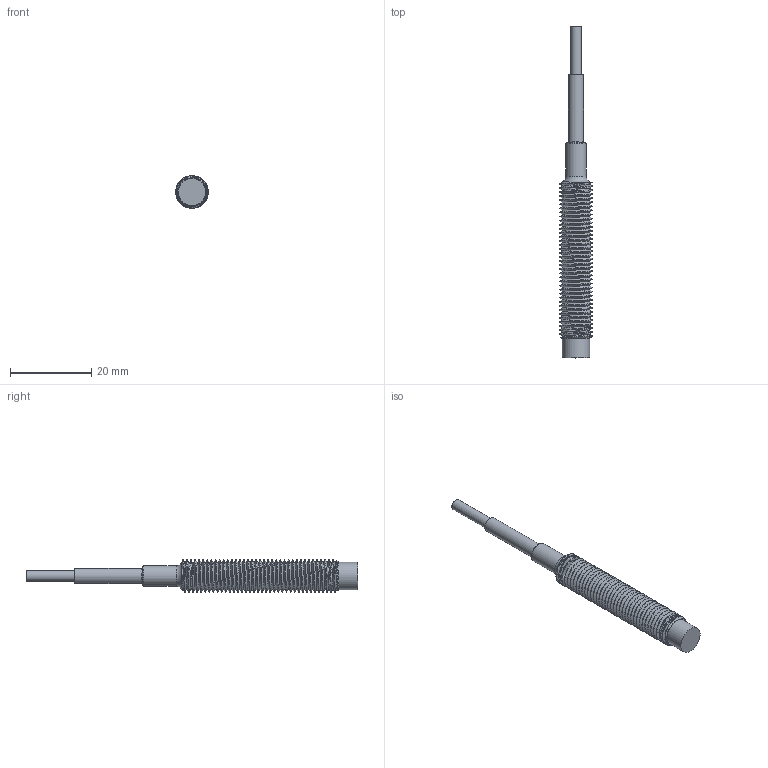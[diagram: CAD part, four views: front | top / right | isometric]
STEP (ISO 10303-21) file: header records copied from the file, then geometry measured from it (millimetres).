
FILE_DESCRIPTION( ( 'STEP AP203' ), '1' );
FILE_NAME( 'N:/Engineering/CAD_Solid/Wirbelstrom/Wirbelstromsensoren/T2/T2-G-KA-VL20.stp', '2013-03-11T14:36:20', ( ' ' ), ( ' ' ), 'XStep 1.0', ' ', ' ' );
FILE_SCHEMA( ( 'CONFIG_CONTROL_DESIGN) ( )' ) );
Length unit declared in the file: metre
Products named in the file (3): 1; 2; 3
Bounding box: 8 x 81.8 x 8 mm (x, y, z)
Surface area: 2395.7 mm2 (no closed solid volume)
Topology: 0 solids, 20 shells, 20 faces, 70 edges, 62 vertices
Faces by surface type: plane 7, cylinder 6, torus 3, bspline 3, cone 1
Full cylindrical faces by diameter (mm): 2.7 x1, 3.7 x1, 5 x2, 6.7 x1
Entity records: 10202 total; most frequent: CARTESIAN_POINT 9577, DIRECTION 104, ORIENTED_EDGE 60, EDGE_CURVE 60, VERTEX_POINT 60, AXIS2_PLACEMENT_3D 52, FACE_BOUND 32, EDGE_LOOP 32
